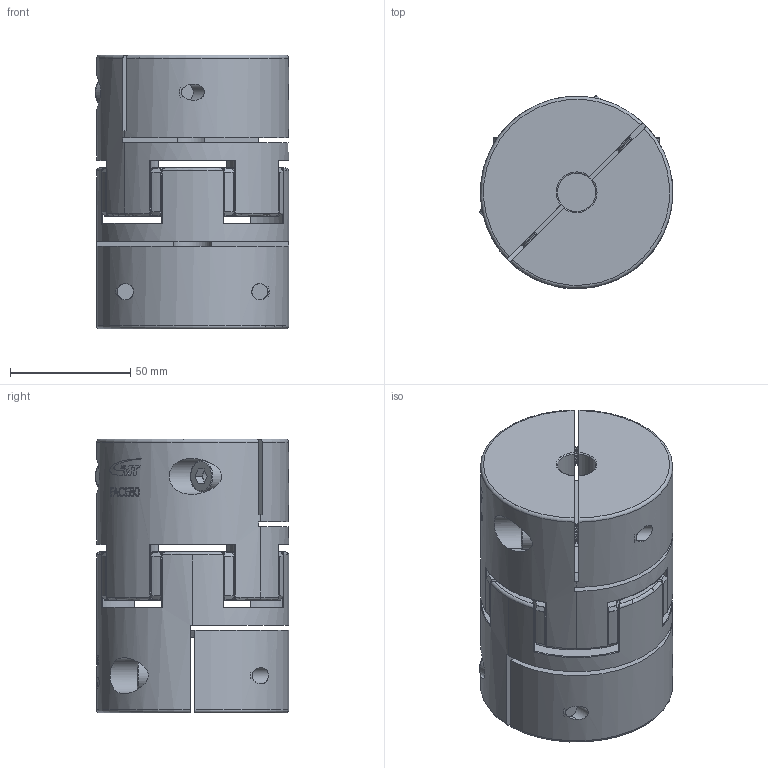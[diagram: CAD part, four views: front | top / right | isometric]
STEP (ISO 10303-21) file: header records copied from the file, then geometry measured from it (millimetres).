
FILE_DESCRIPTION (( 'STEP AP203' ), '1' );
FILE_NAME ('FACE80B-16x16.STEP', '2014-12-01T07:18:47', ( '123' ), ( '' ), 'SwSTEP 2.0', 'SolidWorks 2014', '' );
FILE_SCHEMA (( 'CONFIG_CONTROL_DESIGN' ));
Length unit declared in the file: millimetre
Products named in the file (1): FACE80B-16x16
Bounding box: 80.49 x 80.49 x 114 mm (x, y, z)
Surface area: 85308.3 mm2 (no closed solid volume)
Topology: 0 solids, 28 shells, 512 faces, 2029 edges, 1491 vertices
Faces by surface type: cylinder 159, torus 109, cone 92, plane 79, bspline 61, sphere 12
Entity records: 33016 total; most frequent: CARTESIAN_POINT 17160, DIRECTION 3291, ORIENTED_EDGE 2908, EDGE_CURVE 2019, VERTEX_POINT 1490, AXIS2_PLACEMENT_3D 1435, CIRCLE 983, B_SPLINE_CURVE_WITH_KNOTS 615
